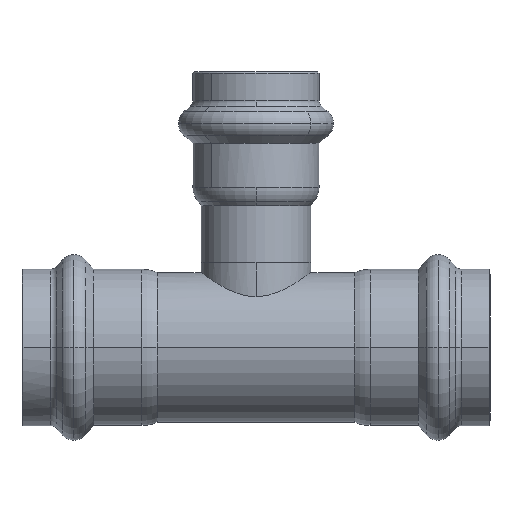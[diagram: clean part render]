
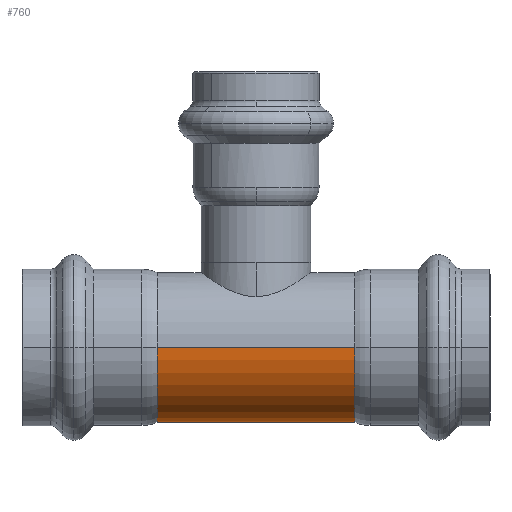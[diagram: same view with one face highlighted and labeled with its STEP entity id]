
A CAD part, left-side view. The second image highlights one B-rep face of the part: STEP entity #760.
In plain terms, the highlighted cylindrical face has radius 15 mm (diameter 30 mm), a partial arc.
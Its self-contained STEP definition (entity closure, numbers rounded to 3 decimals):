
#130=CARTESIAN_POINT('',(46.006,60.838,0.));
#140=VERTEX_POINT('',#130);
#310=CARTESIAN_POINT('',(16.006,60.838,0.));
#320=VERTEX_POINT('',#310);
#350=CARTESIAN_POINT('',(31.006,60.838,0.));
#360=DIRECTION('',(0.,1.,0.));
#370=DIRECTION('',(-1.,0.,0.));
#380=AXIS2_PLACEMENT_3D('',#350,#360,#370);
#390=CIRCLE('',#380,15.);
#400=EDGE_CURVE('',#140,#320,#390,.T.);
#450=CARTESIAN_POINT('',(31.006,41.038,0.));
#460=DIRECTION('',(0.,1.,0.));
#470=DIRECTION('',(1.,0.,0.));
#480=AXIS2_PLACEMENT_3D('',#450,#460,#470);
#490=CYLINDRICAL_SURFACE('',#480,15.);
#500=CARTESIAN_POINT('',(46.006,41.038,0.));
#510=DIRECTION('',(0.,1.,0.));
#520=VECTOR('',#510,1.);
#530=LINE('',#500,#520);
#540=CARTESIAN_POINT('',(46.006,21.238,0.));
#550=VERTEX_POINT('',#540);
#560=EDGE_CURVE('',#550,#140,#530,.T.);
#570=ORIENTED_EDGE('',*,*,#560,.F.);
#580=ORIENTED_EDGE('',*,*,#400,.F.);
#590=CARTESIAN_POINT('',(16.006,41.038,
0.));
#600=DIRECTION('',(0.,1.,0.));
#610=VECTOR('',#600,1.);
#620=LINE('',#590,#610);
#630=CARTESIAN_POINT('',(16.006,21.238,0.));
#640=VERTEX_POINT('',#630);
#650=EDGE_CURVE('',#640,#320,#620,.T.);
#660=ORIENTED_EDGE('',*,*,#650,.T.);
#670=CARTESIAN_POINT('',(31.006,21.238,0.));
#680=DIRECTION('',(0.,1.,0.));
#690=DIRECTION('',(-1.,0.,0.));
#700=AXIS2_PLACEMENT_3D('',#670,#680,#690);
#710=CIRCLE('',#700,15.);
#720=EDGE_CURVE('',#550,#640,#710,.T.);
#730=ORIENTED_EDGE('',*,*,#720,.T.);
#740=EDGE_LOOP('',(#730,#660,#580,#570));
#750=FACE_OUTER_BOUND('',#740,.T.);
#760=ADVANCED_FACE('',(#750),#490,.T.);
